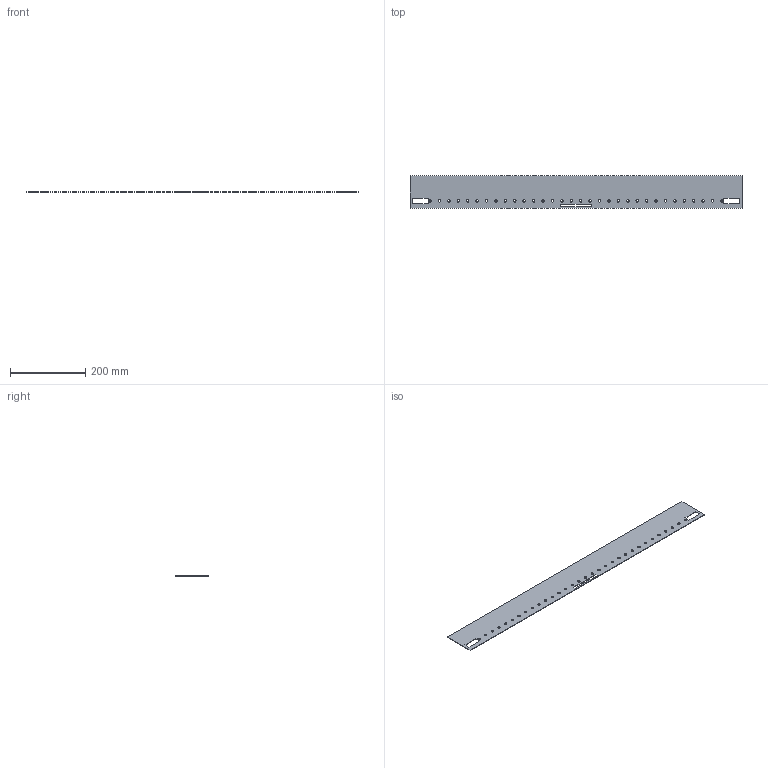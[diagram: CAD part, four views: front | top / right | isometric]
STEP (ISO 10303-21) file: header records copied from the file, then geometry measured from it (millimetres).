
FILE_DESCRIPTION(('STEP AP203'), '1');
FILE_NAME('Äîáîðû ïëàñòðîííîé ñèñòåìû 85õ1000 ìì OptiBox M (2 øò) 419571 ÊÝÀÇ', '', ('UNSPECIFIED'), ('UNSPECIFIED'), 'C3D Converter', 'C3D Toolkit', '');
FILE_SCHEMA(('CONFIG_CONTROL_DESIGN'));
Length unit declared in the file: millimetre
Bounding box: 881.2 x 85.6 x 1.4 mm (x, y, z)
Volume: 101726.6 mm3; surface area: 149502.8 mm2
Topology: 1 solids, 1 shells, 50 faces, 144 edges, 96 vertices
Faces by surface type: cylinder 32, plane 18
Full cylindrical faces by diameter (mm): 6.5 x32
Entity records: 1692 total; most frequent: DIRECTION 278, CARTESIAN_POINT 259, ORIENTED_EDGE 224, EDGE_LOOP 152, AXIS2_PLACEMENT_3D 115, EDGE_CURVE 112, VERTEX_POINT 96, FACE_BOUND 88
